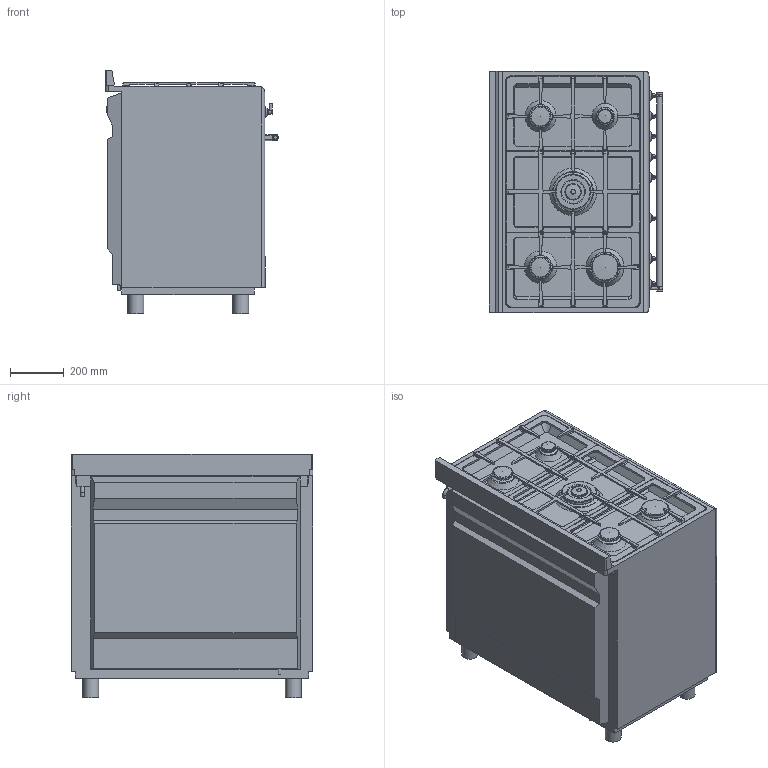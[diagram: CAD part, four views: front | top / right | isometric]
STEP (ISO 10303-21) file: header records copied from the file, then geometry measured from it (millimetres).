
FILE_DESCRIPTION(/* description */ ('Unknown'),/* implementation_level */ '2;1');
FILE_NAME(/* name */ 'CX90GM',/* time_stamp */ '2025-04-11T17:28:57+02:00',/* author */ ('Unknown'),/* organization */ ('Unknown'),/* preprocessor_version */ 'ST-DEVELOPER v16.7',/* originating_system */ 'DEX',/* authorisation */ $);
FILE_SCHEMA (('AUTOMOTIVE_DESIGN {1 0 10303 214 3 1 1}'));
Length unit declared in the file: millimetre
Products named in the file (1): CX90GM
Bounding box: 643.48 x 898 x 906.86 mm (x, y, z)
Volume: 366785187.7 mm3; surface area: 5405312.2 mm2
Topology: 5 solids, 5 shells, 774 faces, 2162 edges, 1453 vertices
Faces by surface type: plane 362, cylinder 287, bspline 68, cone 35, torus 19, sphere 3
Full cylindrical faces by diameter (mm): 4.608 x6, 8 x8, 8.5 x8, 10 x1, 13 x2, 13.5 x2, 14 x2, 14.995 x8, 22 x3, 55 x1, 59 x4, 60.611 x1, 65.5 x1, 75 x2, 85.5 x2, 85.7 x1, 100 x1, 110.5 x1, 131 x1, 147 x1
Entity records: 30628 total; most frequent: CARTESIAN_POINT 8609, ORIENTED_EDGE 3958, DIRECTION 3823, EDGE_CURVE 1979, AXIS2_PLACEMENT_3D 1392, VERTEX_POINT 1381, LINE 1039, VECTOR 1039
